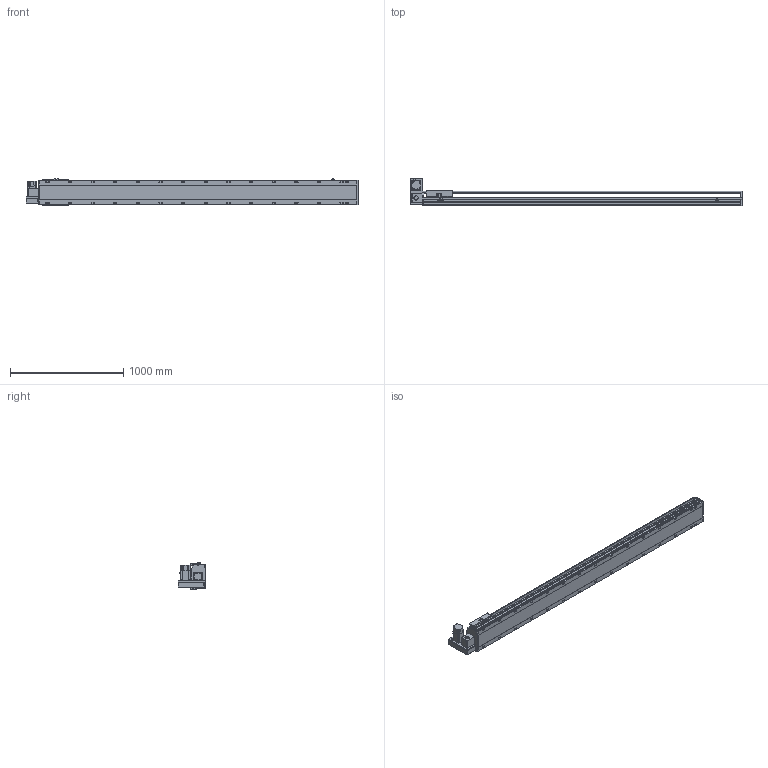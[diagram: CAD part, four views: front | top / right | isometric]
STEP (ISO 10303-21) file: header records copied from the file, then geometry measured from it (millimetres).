
FILE_DESCRIPTION(/* description */ ('STEP AP214'),/* implementation_level */ '2;1');
FILE_NAME(/* name */ 'PBS220-P40-S2450-LU-T75-C1-N(0)',/* time_stamp */ '2022-06-13T02:31:56+02:00',/* author */ ('License CC BY-ND 4.0'),/* organization */ ('CADENAS'),/* preprocessor_version */ 'ST-DEVELOPER v18.102',/* originating_system */ 'PARTsolutions',/* authorisation */ ' ');
FILE_SCHEMA (('AUTOMOTIVE_DESIGN {1 0 10303 214 3 1 1}'));
Length unit declared in the file: millimetre
Products named in the file (7): PBS220-P40-S2450-LU-T75-C1-N(0); PBS220_sensor; PBS220_plant; PBS220_sliser; T75-p1; PBS220T-LU_motors; PBS220-S2450()_body
Assembly tree (8 placements, depth 2):
  PBS220-P40-S2450-LU-T75-C1-N(0)
    PBS220_sensor  x3
    PBS220_plant
    PBS220_sliser
    T75-p1
    PBS220T-LU_motors
    PBS220-S2450()_body
Bounding box: 2934 x 247 x 238.5 mm (x, y, z)
Volume: 40979284.3 mm3; surface area: 3763944.6 mm2
Topology: 8 solids, 8 shells, 998 faces, 2592 edges, 1684 vertices
Faces by surface type: plane 626, cylinder 318, cone 54
Full cylindrical faces by diameter (mm): 2.013 x4, 4.5 x14, 4.917 x4, 6 x7, 6.647 x8, 8 x10, 8.376 x30, 8.5 x30, 10 x6, 14 x30, 38 x2, 40 x1, 70 x1
Entity records: 27813 total; most frequent: CARTESIAN_POINT 4954, DIRECTION 4833, ORIENTED_EDGE 4358, EDGE_CURVE 2179, AXIS2_PLACEMENT_3D 1737, VERTEX_POINT 1528, LINE 1359, VECTOR 1359
